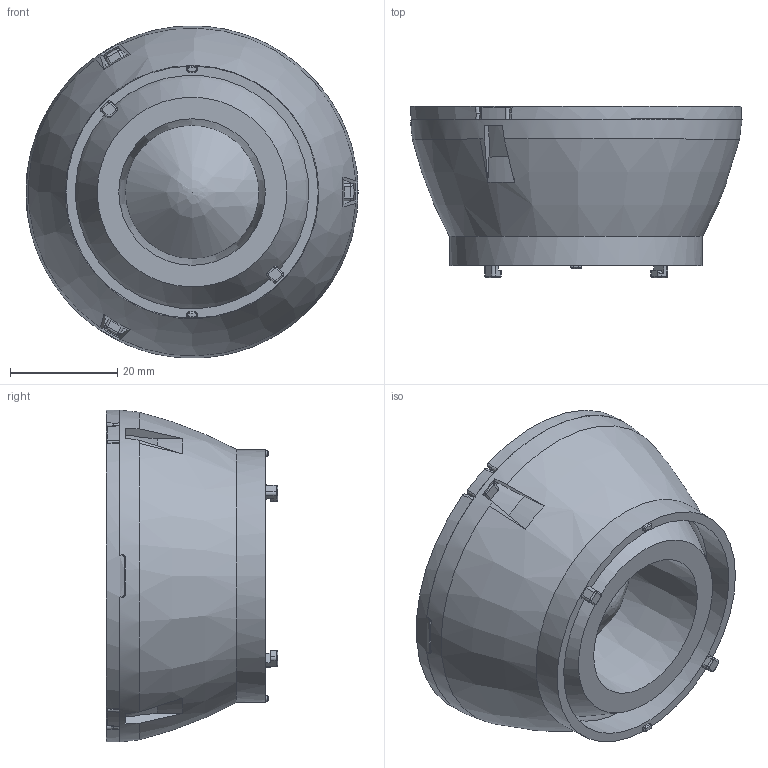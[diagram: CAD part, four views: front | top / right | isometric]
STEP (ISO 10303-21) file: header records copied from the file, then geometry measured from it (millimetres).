
FILE_DESCRIPTION (( 'STEP AP214' ), '1' );
FILE_NAME ('LEDR-BIA50-DK6230-36--3D.STEP', '2025-08-28T02:42:04', ( '1' ), ( '' ), 'SwSTEP 2.0', 'SolidWorks 2018', '' );
FILE_SCHEMA (( 'AUTOMOTIVE_DESIGN' ));
Length unit declared in the file: millimetre
Products named in the file (3): LEDR-BIA50-DK6230-36--3D; HK-HG-62-30-50-D9-21-1g-1; 7710-BXHK-HLD-BIA65-43MMLOCK_X01 (HOLDER,FOR TIR LENS,BXHK-5024-6230 SERIES,CLICK-43.2MM)
Assembly tree (2 placements, depth 2):
  LEDR-BIA50-DK6230-36--3D
    7710-BXHK-HLD-BIA65-43MMLOCK_X01 (HOLDER,FOR TIR LENS,BXHK-5024-6230 SERIES,CLICK-43.2MM)
    HK-HG-62-30-50-D9-21-1g-1
Bounding box: 61.93 x 32 x 61.92 mm (x, y, z)
Volume: 50715.1 mm3; surface area: 21233.1 mm2
Topology: 2 solids, 2 shells, 4769 faces, 11221 edges, 6452 vertices
Faces by surface type: torus 3197, bspline 1182, cylinder 239, plane 91, cone 60
Entity records: 174212 total; most frequent: CARTESIAN_POINT 74855, ORIENTED_EDGE 22350, EDGE_CURVE 11175, B_SPLINE_CURVE_WITH_KNOTS 10525, DIRECTION 8197, VERTEX_POINT 6439, EDGE_LOOP 4802, FACE_OUTER_BOUND 4792
